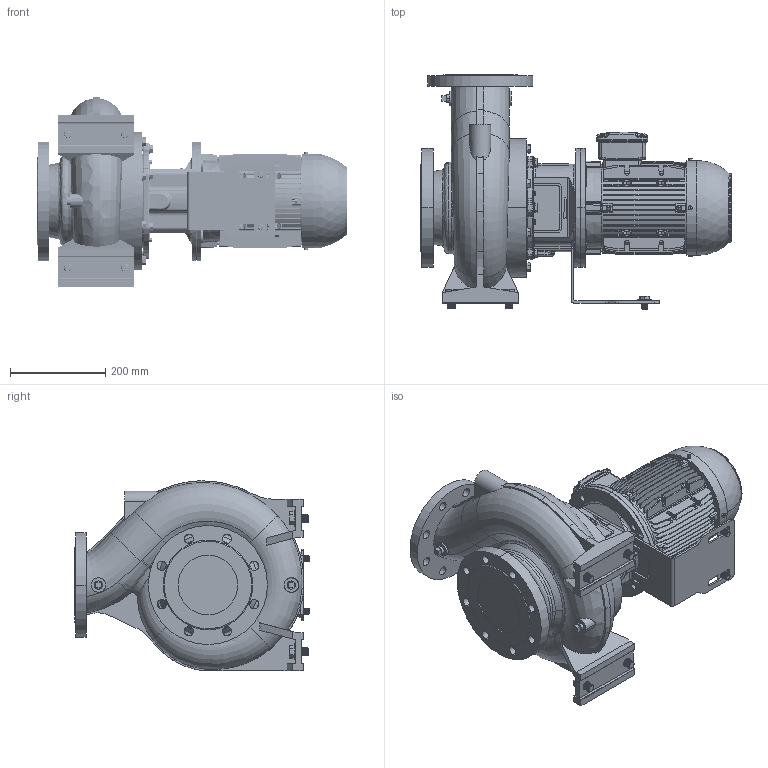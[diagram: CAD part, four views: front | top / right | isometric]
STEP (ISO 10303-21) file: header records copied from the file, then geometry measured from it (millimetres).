
FILE_DESCRIPTION (( 'STEP AP214' ), '1' );
FILE_NAME ('GSD4 100-200_3.0_(100L)_W21.STEP', '2026-07-01T05:44:00', ( '' ), ( '' ), 'SwSTEP 2.0', 'SolidWorks 2024', '' );
FILE_SCHEMA (( 'AUTOMOTIVE_DESIGN' ));
Products named in the file (8): CGSD1-4173; Parametric bolt_SFT-A351B; Parametric bolt_SFT-A295B; Parametric Flat Washer_M12; 100-200-100L_ﾃﾞﾌｫﾙﾄ; GSD4 100-200_3.0_(100L)_W21; 100L ALIE3_W21T_B5; Parametric Flat Washer_M16
Assembly tree (15 placements, depth 2):
  GSD4 100-200_3.0_(100L)_W21
    100-200-100L_ﾃﾞﾌｫﾙﾄ
    100L ALIE3_W21T_B5
    CGSD1-4173
    Parametric bolt_SFT-A295B  x2
    Parametric bolt_SFT-A351B  x4
    Parametric Flat Washer_M16  x4
    Parametric Flat Washer_M12  x2
Bounding box: 652.1 x 493 x 399.79 mm (x, y, z)
Volume: 28643510.6 mm3; surface area: 1625649.3 mm2
Topology: 18 solids, 18 shells, 3610 faces, 9326 edges, 5990 vertices
Faces by surface type: plane 2066, cylinder 836, bspline 252, torus 245, cone 197, sphere 14
Entity records: 183628 total; most frequent: CARTESIAN_POINT 103104, ORIENTED_EDGE 17438, DIRECTION 15474, EDGE_CURVE 8719, VERTEX_POINT 5610, VECTOR 5390, LINE 5390, AXIS2_PLACEMENT_3D 5042
